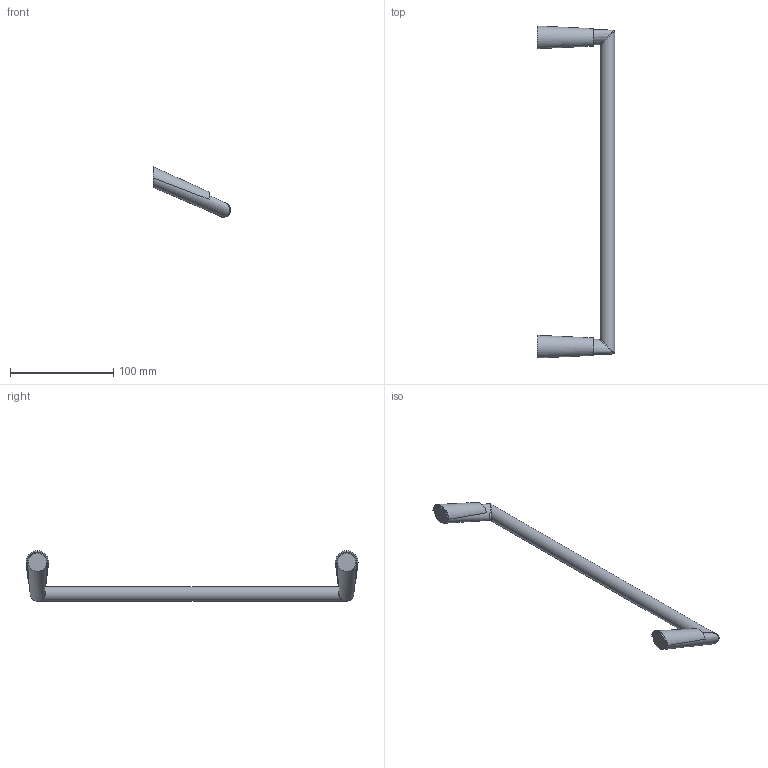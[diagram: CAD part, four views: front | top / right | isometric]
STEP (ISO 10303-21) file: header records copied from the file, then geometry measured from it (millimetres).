
FILE_DESCRIPTION(('STEP AP242'), '1');
FILE_NAME('73CR001', '', ('UNSPECIFIED'), ('UNSPECIFIED'), 'ASCON STEP Converter 1.6', 'ASCON Math Kernel', '');
FILE_SCHEMA(('AP242_MANAGED_MODEL_BASED_3D_ENGINEERING_MIM_LF { 1 0 10303 442 1 1 4 }'));
Length unit declared in the file: millimetre
Bounding box: 75.11 x 322 x 48.85 mm (x, y, z)
Volume: 76498.7 mm3; surface area: 27563.2 mm2
Topology: 3 solids, 3 shells, 21 faces, 48 edges, 26 vertices
Faces by surface type: plane 10, bspline 10, cylinder 1
Full cylindrical faces by diameter (mm): 14 x1
Entity records: 3061 total; most frequent: CARTESIAN_POINT 2468, ORIENTED_EDGE 76, DIRECTION 60, EDGE_CURVE 38, VERTEX_POINT 26, COLOUR_RGB 24, FILL_AREA_STYLE_COLOUR 24, FILL_AREA_STYLE 24
